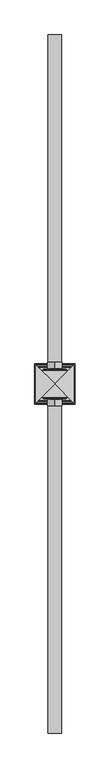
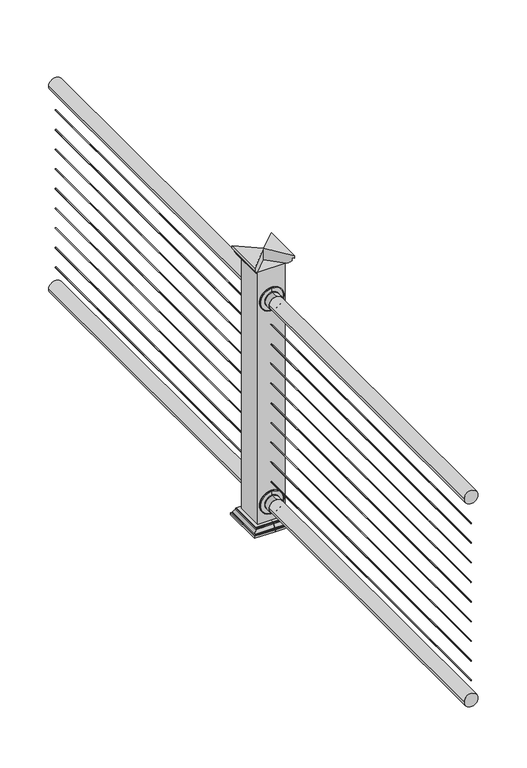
"""IFC4 building model written with IfcOpenShell, lengths in millimetres: railing geometry, RailEasy™ Nautilus Flat."""

from ifc_helpers import new_model, si_unit, point, frame, frame_2d, origin, place, context, project, spatial, polyline, circle_curve, ellipse_curve, trimmed, segment, composite_curve, outline, extrude, source, transform, mapped, element, save
from ifc_brep_helpers import plane_surface, cylinder_surface, revolved_surface, advanced_brep


def railing_d079443f(model_context):
    return source(origin(), model_context, "Body", "SolidModel", [
        extrude(outline(composite_curve([segment(trimmed(circle_curve(frame_2d((2876.826087, 6384.1486243)), 25.4), [point((2876.826087, 6358.7486243))], [point((2876.826087, 6409.5486243))], False, "CARTESIAN"), True, "CONTINUOUS"), segment(trimmed(circle_curve(frame_2d((2876.826087, 6384.1486243)), 25.4), [point((2876.826087, 6409.5486243))], [point((2876.826087, 6358.7486243))], False, "CARTESIAN"), True, "CONTINUOUS")], self_intersect=False)), frame((0.0, 1092.4935787, 0.0), z_axis=(0.0, 1.0, 0.0), x_axis=(0.0, 0.0, 1.0)), (0.0, 0.0, 1.0), 2641.6),
        extrude(outline(composite_curve([segment(trimmed(circle_curve(frame_2d((2775.226087, 6384.1486243)), 1.5379197), [point((2775.226087, 6382.6107045))], [point((2775.226087, 6385.686544))], False, "CARTESIAN"), True, "CONTINUOUS"), segment(trimmed(circle_curve(frame_2d((2775.226087, 6384.1486243)), 1.5379197), [point((2775.226087, 6385.686544))], [point((2775.226087, 6382.6107045))], False, "CARTESIAN"), True, "CONTINUOUS")], self_intersect=False)), frame((0.0, 1092.4935787, 0.0), z_axis=(0.0, 1.0, 0.0), x_axis=(0.0, 0.0, 1.0)), (0.0, 0.0, 1.0), 2641.6),
        extrude(outline(composite_curve([segment(trimmed(circle_curve(frame_2d((2699.026087, 6384.1486243)), 1.5379197), [point((2699.026087, 6382.6107045))], [point((2699.026087, 6385.686544))], False, "CARTESIAN"), True, "CONTINUOUS"), segment(trimmed(circle_curve(frame_2d((2699.026087, 6384.1486243)), 1.5379197), [point((2699.026087, 6385.686544))], [point((2699.026087, 6382.6107045))], False, "CARTESIAN"), True, "CONTINUOUS")], self_intersect=False)), frame((0.0, 1092.4935787, 0.0), z_axis=(0.0, 1.0, 0.0), x_axis=(0.0, 0.0, 1.0)), (0.0, 0.0, 1.0), 2641.6),
        extrude(outline(composite_curve([segment(trimmed(circle_curve(frame_2d((2622.826087, 6384.1486243)), 1.5379197), [point((2622.826087, 6382.6107045))], [point((2622.826087, 6385.686544))], False, "CARTESIAN"), True, "CONTINUOUS"), segment(trimmed(circle_curve(frame_2d((2622.826087, 6384.1486243)), 1.5379197), [point((2622.826087, 6385.686544))], [point((2622.826087, 6382.6107045))], False, "CARTESIAN"), True, "CONTINUOUS")], self_intersect=False)), frame((0.0, 1092.4935787, 0.0), z_axis=(0.0, 1.0, 0.0), x_axis=(0.0, 0.0, 1.0)), (0.0, 0.0, 1.0), 2641.6),
        extrude(outline(composite_curve([segment(trimmed(circle_curve(frame_2d((2546.626087, 6384.1486243)), 1.5379197), [point((2546.626087, 6382.6107045))], [point((2546.626087, 6385.686544))], False, "CARTESIAN"), True, "CONTINUOUS"), segment(trimmed(circle_curve(frame_2d((2546.626087, 6384.1486243)), 1.5379197), [point((2546.626087, 6385.686544))], [point((2546.626087, 6382.6107045))], False, "CARTESIAN"), True, "CONTINUOUS")], self_intersect=False)), frame((0.0, 1092.4935787, 0.0), z_axis=(0.0, 1.0, 0.0), x_axis=(0.0, 0.0, 1.0)), (0.0, 0.0, 1.0), 2641.6),
        extrude(outline(composite_curve([segment(trimmed(circle_curve(frame_2d((2470.426087, 6384.1486243)), 1.5379197), [point((2470.426087, 6382.6107045))], [point((2470.426087, 6385.686544))], False, "CARTESIAN"), True, "CONTINUOUS"), segment(trimmed(circle_curve(frame_2d((2470.426087, 6384.1486243)), 1.5379197), [point((2470.426087, 6385.686544))], [point((2470.426087, 6382.6107045))], False, "CARTESIAN"), True, "CONTINUOUS")], self_intersect=False)), frame((0.0, 1092.4935787, 0.0), z_axis=(0.0, 1.0, 0.0), x_axis=(0.0, 0.0, 1.0)), (0.0, 0.0, 1.0), 2641.6),
        extrude(outline(composite_curve([segment(trimmed(circle_curve(frame_2d((2394.226087, 6384.1486243)), 1.5379197), [point((2394.226087, 6382.6107045))], [point((2394.226087, 6385.686544))], False, "CARTESIAN"), True, "CONTINUOUS"), segment(trimmed(circle_curve(frame_2d((2394.226087, 6384.1486243)), 1.5379197), [point((2394.226087, 6385.686544))], [point((2394.226087, 6382.6107045))], False, "CARTESIAN"), True, "CONTINUOUS")], self_intersect=False)), frame((0.0, 1092.4935787, 0.0), z_axis=(0.0, 1.0, 0.0), x_axis=(0.0, 0.0, 1.0)), (0.0, 0.0, 1.0), 2641.6),
        extrude(outline(composite_curve([segment(trimmed(circle_curve(frame_2d((2318.026087, 6384.1486243)), 1.5379197), [point((2318.026087, 6382.6107045))], [point((2318.026087, 6385.686544))], False, "CARTESIAN"), True, "CONTINUOUS"), segment(trimmed(circle_curve(frame_2d((2318.026087, 6384.1486243)), 1.5379197), [point((2318.026087, 6385.686544))], [point((2318.026087, 6382.6107045))], False, "CARTESIAN"), True, "CONTINUOUS")], self_intersect=False)), frame((0.0, 1092.4935787, 0.0), z_axis=(0.0, 1.0, 0.0), x_axis=(0.0, 0.0, 1.0)), (0.0, 0.0, 1.0), 2641.6),
        extrude(outline(composite_curve([segment(trimmed(circle_curve(frame_2d((2241.826087, 6384.1486243)), 1.5379197), [point((2241.826087, 6382.6107045))], [point((2241.826087, 6385.686544))], False, "CARTESIAN"), True, "CONTINUOUS"), segment(trimmed(circle_curve(frame_2d((2241.826087, 6384.1486243)), 1.5379197), [point((2241.826087, 6385.686544))], [point((2241.826087, 6382.6107045))], False, "CARTESIAN"), True, "CONTINUOUS")], self_intersect=False)), frame((0.0, 1092.4935787, 0.0), z_axis=(0.0, 1.0, 0.0), x_axis=(0.0, 0.0, 1.0)), (0.0, 0.0, 1.0), 2641.6),
        extrude(outline(composite_curve([segment(trimmed(circle_curve(frame_2d((2165.626087, 6384.1486243)), 1.5379197), [point((2165.626087, 6382.6107045))], [point((2165.626087, 6385.686544))], False, "CARTESIAN"), True, "CONTINUOUS"), segment(trimmed(circle_curve(frame_2d((2165.626087, 6384.1486243)), 1.5379197), [point((2165.626087, 6385.686544))], [point((2165.626087, 6382.6107045))], False, "CARTESIAN"), True, "CONTINUOUS")], self_intersect=False)), frame((0.0, 1092.4935787, 0.0), z_axis=(0.0, 1.0, 0.0), x_axis=(0.0, 0.0, 1.0)), (0.0, 0.0, 1.0), 2641.6),
        extrude(outline(composite_curve([segment(trimmed(circle_curve(frame_2d((2089.426087, 6384.1486243)), 25.4), [point((2089.426087, 6358.7486243))], [point((2089.426087, 6409.5486243))], False, "CARTESIAN"), True, "CONTINUOUS"), segment(trimmed(circle_curve(frame_2d((2089.426087, 6384.1486243)), 25.4), [point((2089.426087, 6409.5486243))], [point((2089.426087, 6358.7486243))], False, "CARTESIAN"), True, "CONTINUOUS")], self_intersect=False)), frame((0.0, 1092.4935787, 0.0), z_axis=(0.0, 1.0, 0.0), x_axis=(0.0, 0.0, 1.0)), (0.0, 0.0, 1.0), 2641.6),
        extrude(outline(polyline([(6434.9486243, 2362.4935787), (6333.3486243, 2362.4935787), (6333.3486243, 2464.0935787), (6434.9486243, 2464.0935787), (6434.9486243, 2362.4935787)])), frame((0.0, 0.0, 1987.826087), z_axis=(0.0, 0.0, 1.0), x_axis=(1.0, 0.0, 0.0)), (0.0, 0.0, 1.0), 1008.0625),
        advanced_brep(
        [(6384.1486243, 2359.3185787, 2044.9956119), (6384.1486243, 2359.3185787, 2133.8956119), (6384.1486243, 2357.7310787, 2132.3081119), (6384.1486243, 2357.7310787, 2046.5831119), (6384.1486243, 2357.7310787, 2118.0206119), (6384.1486243, 2357.7310787, 2060.8706119), (6384.1486243, 2356.1435787, 2116.4331119), (6384.1486243, 2356.1435787, 2062.4581119), (6384.1486243, 2362.4935787, 2089.4456119), (6384.1486243, 2362.4935787, 2133.8956119), (6384.1486243, 2362.4935787, 2044.9956119), (6384.1486243, 2330.7435787, 2062.4581119), (6384.1486243, 2330.7435787, 2116.4331119), (6384.1486243, 2330.7435787, 2089.4456119)],
        [
            (0, 1, circle_curve(frame((6384.1486243, 2359.3185787, 2089.4456119), z_axis=(0.0, -1.0, 0.0), x_axis=(0.0, 0.0, 1.0)), 44.45)),
            (1, 2),
            (2, 3, circle_curve(frame((6384.1486243, 2357.7310787, 2089.4456119), z_axis=(0.0, 1.0, 0.0), x_axis=(0.0, 0.0, 1.0)), 42.8625)),
            (3, 0),
            (1, 0, circle_curve(frame((6384.1486243, 2359.3185787, 2089.4456119), z_axis=(0.0, -1.0, 0.0), x_axis=(0.0, 0.0, 1.0)), 44.45)),
            (3, 2, circle_curve(frame((6384.1486243, 2357.7310787, 2089.4456119), z_axis=(0.0, 1.0, 0.0), x_axis=(0.0, 0.0, 1.0)), 42.8625)),
            (2, 4),
            (4, 5, circle_curve(frame((6384.1486243, 2357.7310787, 2089.4456119), z_axis=(0.0, 1.0, 0.0), x_axis=(0.0, 0.0, 1.0)), 28.575)),
            (5, 3),
            (5, 4, circle_curve(frame((6384.1486243, 2357.7310787, 2089.4456119), z_axis=(0.0, 1.0, 0.0), x_axis=(0.0, 0.0, 1.0)), 28.575)),
            (4, 6, circle_curve(frame((6384.1486243, 2356.1435787, 2118.0206119), z_axis=(-1.0, 0.0, 0.0), x_axis=(0.0, 1.0, 0.0)), 1.5875)),
            (6, 7, circle_curve(frame((6384.1486243, 2356.1435787, 2089.4456119), z_axis=(0.0, 1.0, 0.0), x_axis=(0.0, 0.0, 1.0)), 26.9875)),
            (7, 5, circle_curve(frame((6384.1486243, 2356.1435787, 2060.8706119), z_axis=(-1.0, 0.0, 0.0), x_axis=(0.0, 1.0, 0.0)), 1.5875)),
            (7, 6, circle_curve(frame((6384.1486243, 2356.1435787, 2089.4456119), z_axis=(0.0, 1.0, 0.0), x_axis=(0.0, 0.0, 1.0)), 26.9875)),
            (8, 9),
            (9, 10, circle_curve(frame((6384.1486243, 2362.4935787, 2089.4456119), z_axis=(0.0, 1.0, 0.0), x_axis=(0.0, 0.0, 1.0)), 44.45)),
            (10, 8),
            (10, 9, circle_curve(frame((6384.1486243, 2362.4935787, 2089.4456119), z_axis=(0.0, 1.0, 0.0), x_axis=(0.0, 0.0, 1.0)), 44.45)),
            (9, 1),
            (0, 10),
            (11, 12, circle_curve(frame((6384.1486243, 2330.7435787, 2089.4456119), z_axis=(0.0, -1.0, 0.0), x_axis=(0.0, 0.0, 1.0)), 26.9875)),
            (12, 13),
            (13, 11),
            (12, 11, circle_curve(frame((6384.1486243, 2330.7435787, 2089.4456119), z_axis=(0.0, -1.0, 0.0), x_axis=(0.0, 0.0, 1.0)), 26.9875)),
            (6, 12),
            (11, 7),
        ],
        [
            revolved_surface(polyline([(6384.1486243, 2357.7310787, 2132.3081119), (6384.1486243, 2359.3185787, 2133.8956119)]), (6384.1486243, 2330.7435787, 2089.4456119), (0.0, 1.0, 0.0)),
            plane_surface(frame((6384.1486243, 2357.7310787, 2089.4456119), z_axis=(0.0, -1.0, 0.0), x_axis=(0.0, 0.0, 1.0))),
            revolved_surface(trimmed(ellipse_curve(frame((6384.1486243, 2356.1435787, 2118.0206119), z_axis=(1.0, 0.0, 0.0), x_axis=(0.0, 1.0, 0.0)), 1.5875, 1.5875), [point((6384.1486243, 2356.1435787, 2116.4331119))], [point((6384.1486243, 2357.7310787, 2118.0206119))], True, "CARTESIAN"), (6384.1486243, 2330.7435787, 2089.4456119), (0.0, 1.0, 0.0)),
            plane_surface(frame((6384.1486243, 2362.4935787, 2089.4456119), z_axis=(0.0, 1.0, 0.0), x_axis=(0.0, 0.0, 1.0))),
            cylinder_surface(frame((6384.1486243, 2330.7435787, 2089.4456119), z_axis=(0.0, 1.0, 0.0), x_axis=(0.0, 0.0, 1.0)), 44.45),
            plane_surface(frame((6384.1486243, 2330.7435787, 2089.4456119), z_axis=(0.0, -1.0, 0.0), x_axis=(0.0, 0.0, 1.0))),
            cylinder_surface(frame((6384.1486243, 2330.7435787, 2089.4456119), z_axis=(0.0, 1.0, 0.0), x_axis=(0.0, 0.0, 1.0)), 26.9875),
        ],
        [
            (0, [[1, 2, 3, 4]]),
            (0, [[5, -4, 6, -2]]),
            (1, [[-3, 7, 8, 9]]),
            (1, [[-6, -9, 10, -7]]),
            (2, [[-8, 11, 12, 13]]),
            (2, [[-10, -13, 14, -11]]),
            (3, [[15, 16, 17]]),
            (3, [[-17, 18, -15]]),
            (4, [[-16, 19, -1, 20]]),
            (4, [[-18, -20, -5, -19]]),
            (5, [[21, 22, 23]]),
            (5, [[24, -23, -22]]),
            (6, [[-12, 25, -21, 26]]),
            (6, [[-14, -26, -24, -25]]),
        ],
    ),
        advanced_brep(
        [(6384.1486243, 2468.8560787, 2046.549264), (6384.1486243, 2468.8560787, 2132.274264), (6384.1486243, 2467.2685787, 2133.861764), (6384.1486243, 2467.2685787, 2044.961764), (6384.1486243, 2468.8560787, 2060.836764), (6384.1486243, 2468.8560787, 2117.986764), (6384.1486243, 2470.4435787, 2062.424264), (6384.1486243, 2470.4435787, 2116.399264), (6384.1486243, 2464.0935787, 2044.961764), (6384.1486243, 2464.0935787, 2133.861764), (6384.1486243, 2464.0935787, 2089.411764), (6384.1486243, 2495.8435787, 2062.424264), (6384.1486243, 2495.8435787, 2116.399264), (6384.1486243, 2495.8435787, 2089.411764)],
        [
            (0, 1, circle_curve(frame((6384.1486243, 2468.8560787, 2089.411764), z_axis=(0.0, -1.0, 0.0), x_axis=(0.0, 0.0, 1.0)), 42.8625)),
            (1, 2),
            (2, 3, circle_curve(frame((6384.1486243, 2467.2685787, 2089.411764), z_axis=(0.0, 1.0, 0.0), x_axis=(0.0, 0.0, 1.0)), 44.45)),
            (3, 0),
            (1, 0, circle_curve(frame((6384.1486243, 2468.8560787, 2089.411764), z_axis=(0.0, -1.0, 0.0), x_axis=(0.0, 0.0, 1.0)), 42.8625)),
            (3, 2, circle_curve(frame((6384.1486243, 2467.2685787, 2089.411764), z_axis=(0.0, 1.0, 0.0), x_axis=(0.0, 0.0, 1.0)), 44.45)),
            (4, 5, circle_curve(frame((6384.1486243, 2468.8560787, 2089.411764), z_axis=(0.0, -1.0, 0.0), x_axis=(0.0, 0.0, 1.0)), 28.575)),
            (5, 1),
            (0, 4),
            (5, 4, circle_curve(frame((6384.1486243, 2468.8560787, 2089.411764), z_axis=(0.0, -1.0, 0.0), x_axis=(0.0, 0.0, 1.0)), 28.575)),
            (6, 7, circle_curve(frame((6384.1486243, 2470.4435787, 2089.411764), z_axis=(0.0, -1.0, 0.0), x_axis=(0.0, 0.0, 1.0)), 26.9875)),
            (7, 5, circle_curve(frame((6384.1486243, 2470.4435787, 2117.986764), z_axis=(-1.0, 0.0, 0.0), x_axis=(0.0, -1.0, 0.0)), 1.5875)),
            (4, 6, circle_curve(frame((6384.1486243, 2470.4435787, 2060.836764), z_axis=(-1.0, 0.0, 0.0), x_axis=(0.0, -1.0, 0.0)), 1.5875)),
            (7, 6, circle_curve(frame((6384.1486243, 2470.4435787, 2089.411764), z_axis=(0.0, -1.0, 0.0), x_axis=(0.0, 0.0, 1.0)), 26.9875)),
            (8, 9, circle_curve(frame((6384.1486243, 2464.0935787, 2089.411764), z_axis=(0.0, -1.0, 0.0), x_axis=(0.0, 0.0, 1.0)), 44.45)),
            (9, 10),
            (10, 8),
            (9, 8, circle_curve(frame((6384.1486243, 2464.0935787, 2089.411764), z_axis=(0.0, -1.0, 0.0), x_axis=(0.0, 0.0, 1.0)), 44.45)),
            (2, 9),
            (8, 3),
            (11, 12, circle_curve(frame((6384.1486243, 2495.8435787, 2089.411764), z_axis=(0.0, -1.0, 0.0), x_axis=(0.0, 0.0, 1.0)), 26.9875)),
            (12, 7),
            (6, 11),
            (12, 11, circle_curve(frame((6384.1486243, 2495.8435787, 2089.411764), z_axis=(0.0, -1.0, 0.0), x_axis=(0.0, 0.0, 1.0)), 26.9875)),
            (13, 12),
            (11, 13),
        ],
        [
            revolved_surface(polyline([(6384.1486243, 2467.2685787, 2133.861764), (6384.1486243, 2468.8560787, 2132.274264)]), (6384.1486243, 2495.8435787, 2089.411764), (0.0, 1.0, 0.0)),
            plane_surface(frame((6384.1486243, 2468.8560787, 2089.411764), z_axis=(0.0, 1.0, 0.0), x_axis=(0.0, 0.0, 1.0))),
            revolved_surface(trimmed(ellipse_curve(frame((6384.1486243, 2470.4435787, 2117.986764), z_axis=(1.0, 0.0, 0.0), x_axis=(0.0, -1.0, 0.0)), 1.5875, 1.5875), [point((6384.1486243, 2468.8560787, 2117.986764))], [point((6384.1486243, 2470.4435787, 2116.399264))], True, "CARTESIAN"), (6384.1486243, 2495.8435787, 2089.411764), (0.0, 1.0, 0.0)),
            plane_surface(frame((6384.1486243, 2464.0935787, 2089.411764), z_axis=(0.0, -1.0, 0.0), x_axis=(0.0, 0.0, 1.0))),
            cylinder_surface(frame((6384.1486243, 2495.8435787, 2089.411764), z_axis=(0.0, 1.0, 0.0), x_axis=(0.0, 0.0, 1.0)), 44.45),
            cylinder_surface(frame((6384.1486243, 2495.8435787, 2089.411764), z_axis=(0.0, 1.0, 0.0), x_axis=(0.0, 0.0, 1.0)), 26.9875),
            plane_surface(frame((6384.1486243, 2495.8435787, 2089.411764), z_axis=(0.0, 1.0, 0.0), x_axis=(0.0, 0.0, 1.0))),
        ],
        [
            (0, [[1, 2, 3, 4]]),
            (0, [[5, -4, 6, -2]]),
            (1, [[7, 8, -1, 9]]),
            (1, [[10, -9, -5, -8]]),
            (2, [[11, 12, -7, 13]]),
            (2, [[14, -13, -10, -12]]),
            (3, [[15, 16, 17]]),
            (3, [[18, -17, -16]]),
            (4, [[-3, 19, -15, 20]]),
            (4, [[-6, -20, -18, -19]]),
            (5, [[21, 22, -11, 23]]),
            (5, [[24, -23, -14, -22]]),
            (6, [[25, -21, 26]]),
            (6, [[-26, -24, -25]]),
        ],
    ),
        advanced_brep(
        [(6384.1486243, 2359.3185787, 2832.3743799), (6384.1486243, 2359.3185787, 2921.2743799), (6384.1486243, 2357.7310787, 2919.6868799), (6384.1486243, 2357.7310787, 2833.9618799), (6384.1486243, 2357.7310787, 2905.3993799), (6384.1486243, 2357.7310787, 2848.2493799), (6384.1486243, 2356.1435787, 2903.8118799), (6384.1486243, 2356.1435787, 2849.8368799), (6384.1486243, 2362.4935787, 2876.8243799), (6384.1486243, 2362.4935787, 2921.2743799), (6384.1486243, 2362.4935787, 2832.3743799), (6384.1486243, 2330.7435787, 2849.8368799), (6384.1486243, 2330.7435787, 2903.8118799), (6384.1486243, 2330.7435787, 2876.8243799)],
        [
            (0, 1, circle_curve(frame((6384.1486243, 2359.3185787, 2876.8243799), z_axis=(0.0, -1.0, 0.0), x_axis=(0.0, 0.0, 1.0)), 44.45)),
            (1, 2),
            (2, 3, circle_curve(frame((6384.1486243, 2357.7310787, 2876.8243799), z_axis=(0.0, 1.0, 0.0), x_axis=(0.0, 0.0, 1.0)), 42.8625)),
            (3, 0),
            (1, 0, circle_curve(frame((6384.1486243, 2359.3185787, 2876.8243799), z_axis=(0.0, -1.0, 0.0), x_axis=(0.0, 0.0, 1.0)), 44.45)),
            (3, 2, circle_curve(frame((6384.1486243, 2357.7310787, 2876.8243799), z_axis=(0.0, 1.0, 0.0), x_axis=(0.0, 0.0, 1.0)), 42.8625)),
            (2, 4),
            (4, 5, circle_curve(frame((6384.1486243, 2357.7310787, 2876.8243799), z_axis=(0.0, 1.0, 0.0), x_axis=(0.0, 0.0, 1.0)), 28.575)),
            (5, 3),
            (5, 4, circle_curve(frame((6384.1486243, 2357.7310787, 2876.8243799), z_axis=(0.0, 1.0, 0.0), x_axis=(0.0, 0.0, 1.0)), 28.575)),
            (4, 6, circle_curve(frame((6384.1486243, 2356.1435787, 2905.3993799), z_axis=(-1.0, 0.0, 0.0), x_axis=(0.0, 1.0, 0.0)), 1.5875)),
            (6, 7, circle_curve(frame((6384.1486243, 2356.1435787, 2876.8243799), z_axis=(0.0, 1.0, 0.0), x_axis=(0.0, 0.0, 1.0)), 26.9875)),
            (7, 5, circle_curve(frame((6384.1486243, 2356.1435787, 2848.2493799), z_axis=(-1.0, 0.0, 0.0), x_axis=(0.0, 1.0, 0.0)), 1.5875)),
            (7, 6, circle_curve(frame((6384.1486243, 2356.1435787, 2876.8243799), z_axis=(0.0, 1.0, 0.0), x_axis=(0.0, 0.0, 1.0)), 26.9875)),
            (8, 9),
            (9, 10, circle_curve(frame((6384.1486243, 2362.4935787, 2876.8243799), z_axis=(0.0, 1.0, 0.0), x_axis=(0.0, 0.0, 1.0)), 44.45)),
            (10, 8),
            (10, 9, circle_curve(frame((6384.1486243, 2362.4935787, 2876.8243799), z_axis=(0.0, 1.0, 0.0), x_axis=(0.0, 0.0, 1.0)), 44.45)),
            (9, 1),
            (0, 10),
            (11, 12, circle_curve(frame((6384.1486243, 2330.7435787, 2876.8243799), z_axis=(0.0, -1.0, 0.0), x_axis=(0.0, 0.0, 1.0)), 26.9875)),
            (12, 13),
            (13, 11),
            (12, 11, circle_curve(frame((6384.1486243, 2330.7435787, 2876.8243799), z_axis=(0.0, -1.0, 0.0), x_axis=(0.0, 0.0, 1.0)), 26.9875)),
            (6, 12),
            (11, 7),
        ],
        [
            revolved_surface(polyline([(6384.1486243, 2357.7310787, 2919.6868799), (6384.1486243, 2359.3185787, 2921.2743799)]), (6384.1486243, 2362.4935787, 2876.8243799), (0.0, 1.0, 0.0)),
            plane_surface(frame((6384.1486243, 2357.7310787, 2876.8243799), z_axis=(0.0, -1.0, 0.0), x_axis=(0.0, 0.0, 1.0))),
            revolved_surface(trimmed(ellipse_curve(frame((6384.1486243, 2356.1435787, 2905.3993799), z_axis=(1.0, 0.0, 0.0), x_axis=(0.0, 1.0, 0.0)), 1.5875, 1.5875), [point((6384.1486243, 2356.1435787, 2903.8118799))], [point((6384.1486243, 2357.7310787, 2905.3993799))], True, "CARTESIAN"), (6384.1486243, 2362.4935787, 2876.8243799), (0.0, 1.0, 0.0)),
            plane_surface(frame((6384.1486243, 2362.4935787, 2876.8243799), z_axis=(0.0, 1.0, 0.0), x_axis=(0.0, 0.0, 1.0))),
            cylinder_surface(frame((6384.1486243, 2362.4935787, 2876.8243799), z_axis=(0.0, 1.0, 0.0), x_axis=(0.0, 0.0, 1.0)), 44.45),
            plane_surface(frame((6384.1486243, 2330.7435787, 2876.8243799), z_axis=(0.0, -1.0, 0.0), x_axis=(0.0, 0.0, 1.0))),
            cylinder_surface(frame((6384.1486243, 2362.4935787, 2876.8243799), z_axis=(0.0, 1.0, 0.0), x_axis=(0.0, 0.0, 1.0)), 26.9875),
        ],
        [
            (0, [[1, 2, 3, 4]]),
            (0, [[5, -4, 6, -2]]),
            (1, [[-3, 7, 8, 9]]),
            (1, [[-6, -9, 10, -7]]),
            (2, [[-8, 11, 12, 13]]),
            (2, [[-10, -13, 14, -11]]),
            (3, [[15, 16, 17]]),
            (3, [[-17, 18, -15]]),
            (4, [[-16, 19, -1, 20]]),
            (4, [[-18, -20, -5, -19]]),
            (5, [[21, 22, 23]]),
            (5, [[24, -23, -22]]),
            (6, [[-12, 25, -21, 26]]),
            (6, [[-14, -26, -24, -25]]),
        ],
    ),
        advanced_brep(
        [(6384.1486243, 2468.8560787, 2833.7651495), (6384.1486243, 2468.8560787, 2919.4901495), (6384.1486243, 2467.2685787, 2921.0776495), (6384.1486243, 2467.2685787, 2832.1776495), (6384.1486243, 2468.8560787, 2848.0526495), (6384.1486243, 2468.8560787, 2905.2026495), (6384.1486243, 2470.4435787, 2849.6401495), (6384.1486243, 2470.4435787, 2903.6151495), (6384.1486243, 2464.0935787, 2832.1776495), (6384.1486243, 2464.0935787, 2921.0776495), (6384.1486243, 2464.0935787, 2876.6276495), (6384.1486243, 2495.8435787, 2849.6401495), (6384.1486243, 2495.8435787, 2903.6151495), (6384.1486243, 2495.8435787, 2876.6276495)],
        [
            (0, 1, circle_curve(frame((6384.1486243, 2468.8560787, 2876.6276495), z_axis=(0.0, -1.0, 0.0), x_axis=(0.0, 0.0, 1.0)), 42.8625)),
            (1, 2),
            (2, 3, circle_curve(frame((6384.1486243, 2467.2685787, 2876.6276495), z_axis=(0.0, 1.0, 0.0), x_axis=(0.0, 0.0, 1.0)), 44.45)),
            (3, 0),
            (1, 0, circle_curve(frame((6384.1486243, 2468.8560787, 2876.6276495), z_axis=(0.0, -1.0, 0.0), x_axis=(0.0, 0.0, 1.0)), 42.8625)),
            (3, 2, circle_curve(frame((6384.1486243, 2467.2685787, 2876.6276495), z_axis=(0.0, 1.0, 0.0), x_axis=(0.0, 0.0, 1.0)), 44.45)),
            (4, 5, circle_curve(frame((6384.1486243, 2468.8560787, 2876.6276495), z_axis=(0.0, -1.0, 0.0), x_axis=(0.0, 0.0, 1.0)), 28.575)),
            (5, 1),
            (0, 4),
            (5, 4, circle_curve(frame((6384.1486243, 2468.8560787, 2876.6276495), z_axis=(0.0, -1.0, 0.0), x_axis=(0.0, 0.0, 1.0)), 28.575)),
            (6, 7, circle_curve(frame((6384.1486243, 2470.4435787, 2876.6276495), z_axis=(0.0, -1.0, 0.0), x_axis=(0.0, 0.0, 1.0)), 26.9875)),
            (7, 5, circle_curve(frame((6384.1486243, 2470.4435787, 2905.2026495), z_axis=(-1.0, 0.0, 0.0), x_axis=(0.0, -1.0, 0.0)), 1.5875)),
            (4, 6, circle_curve(frame((6384.1486243, 2470.4435787, 2848.0526495), z_axis=(-1.0, 0.0, 0.0), x_axis=(0.0, -1.0, 0.0)), 1.5875)),
            (7, 6, circle_curve(frame((6384.1486243, 2470.4435787, 2876.6276495), z_axis=(0.0, -1.0, 0.0), x_axis=(0.0, 0.0, 1.0)), 26.9875)),
            (8, 9, circle_curve(frame((6384.1486243, 2464.0935787, 2876.6276495), z_axis=(0.0, -1.0, 0.0), x_axis=(0.0, 0.0, 1.0)), 44.45)),
            (9, 10),
            (10, 8),
            (9, 8, circle_curve(frame((6384.1486243, 2464.0935787, 2876.6276495), z_axis=(0.0, -1.0, 0.0), x_axis=(0.0, 0.0, 1.0)), 44.45)),
            (2, 9),
            (8, 3),
            (11, 12, circle_curve(frame((6384.1486243, 2495.8435787, 2876.6276495), z_axis=(0.0, -1.0, 0.0), x_axis=(0.0, 0.0, 1.0)), 26.9875)),
            (12, 7),
            (6, 11),
            (12, 11, circle_curve(frame((6384.1486243, 2495.8435787, 2876.6276495), z_axis=(0.0, -1.0, 0.0), x_axis=(0.0, 0.0, 1.0)), 26.9875)),
            (13, 12),
            (11, 13),
        ],
        [
            revolved_surface(polyline([(6384.1486243, 2467.2685787, 2921.0776495), (6384.1486243, 2468.8560787, 2919.4901495)]), (6384.1486243, 2464.0935787, 2876.6276495), (0.0, 1.0, 0.0)),
            plane_surface(frame((6384.1486243, 2468.8560787, 2876.6276495), z_axis=(0.0, 1.0, 0.0), x_axis=(0.0, 0.0, 1.0))),
            revolved_surface(trimmed(ellipse_curve(frame((6384.1486243, 2470.4435787, 2905.2026495), z_axis=(1.0, 0.0, 0.0), x_axis=(0.0, -1.0, 0.0)), 1.5875, 1.5875), [point((6384.1486243, 2468.8560787, 2905.2026495))], [point((6384.1486243, 2470.4435787, 2903.6151495))], True, "CARTESIAN"), (6384.1486243, 2464.0935787, 2876.6276495), (0.0, 1.0, 0.0)),
            plane_surface(frame((6384.1486243, 2464.0935787, 2876.6276495), z_axis=(0.0, -1.0, 0.0), x_axis=(0.0, 0.0, 1.0))),
            cylinder_surface(frame((6384.1486243, 2464.0935787, 2876.6276495), z_axis=(0.0, 1.0, 0.0), x_axis=(0.0, 0.0, 1.0)), 44.45),
            cylinder_surface(frame((6384.1486243, 2464.0935787, 2876.6276495), z_axis=(0.0, 1.0, 0.0), x_axis=(0.0, 0.0, 1.0)), 26.9875),
            plane_surface(frame((6384.1486243, 2495.8435787, 2876.6276495), z_axis=(0.0, 1.0, 0.0), x_axis=(0.0, 0.0, 1.0))),
        ],
        [
            (0, [[1, 2, 3, 4]]),
            (0, [[5, -4, 6, -2]]),
            (1, [[7, 8, -1, 9]]),
            (1, [[10, -9, -5, -8]]),
            (2, [[11, 12, -7, 13]]),
            (2, [[14, -13, -10, -12]]),
            (3, [[15, 16, 17]]),
            (3, [[18, -17, -16]]),
            (4, [[-3, 19, -15, 20]]),
            (4, [[-6, -20, -18, -19]]),
            (5, [[21, 22, -11, 23]]),
            (5, [[24, -23, -14, -22]]),
            (6, [[25, -21, 26]]),
            (6, [[-26, -24, -25]]),
        ],
    ),
        advanced_brep(
        [(6384.1486243, 2337.0935787, 1987.826087), (6384.1486243, 2337.0935787, 1995.763587), (6384.1486243, 2340.2685787, 1995.763587), (6384.1486243, 2340.2685787, 1998.938587), (6384.1486243, 2341.8560787, 1998.938587), (6384.1486243, 2348.2060787, 2011.638587), (6384.1486243, 2348.2060787, 2014.813587), (6384.1486243, 2351.3810787, 2014.813587), (6384.1486243, 2351.3810787, 2017.988587), (6384.1486243, 2475.2060787, 2017.988587), (6384.1486243, 2475.2060787, 2014.813587), (6384.1486243, 2478.3810787, 2014.813587), (6384.1486243, 2478.3810787, 2011.638587), (6384.1486243, 2484.7310787, 1998.938587), (6384.1486243, 2486.3185787, 1998.938587), (6384.1486243, 2486.3185787, 1995.763587), (6384.1486243, 2489.4935787, 1995.763587), (6384.1486243, 2489.4935787, 1987.826087), (6446.0611243, 2351.3810787, 2017.988587), (6446.0611243, 2475.2060787, 2017.988587), (6446.0611243, 2351.3810787, 2014.813587), (6446.0611243, 2475.2060787, 2014.813587), (6449.2361243, 2348.2060787, 2014.813587), (6449.2361243, 2478.3810787, 2014.813587), (6449.2361243, 2348.2060787, 2011.638587), (6449.2361243, 2478.3810787, 2011.638587), (6455.5861243, 2341.8560787, 1998.938587), (6455.5861243, 2484.7310787, 1998.938587), (6457.1736243, 2340.2685787, 1998.938587), (6457.1736243, 2486.3185787, 1998.938587), (6457.1736243, 2340.2685787, 1995.763587), (6457.1736243, 2486.3185787, 1995.763587), (6460.3486243, 2337.0935787, 1995.763587), (6460.3486243, 2489.4935787, 1995.763587), (6460.3486243, 2337.0935787, 1987.826087), (6460.3486243, 2489.4935787, 1987.826087)],
        [
            (0, 1),
            (1, 2),
            (2, 3),
            (3, 4),
            (4, 5, circle_curve(frame((6384.1486243, 2367.2560787, 1994.176087), z_axis=(-1.0, 0.0, 0.0), x_axis=(0.0, -1.0, 0.0)), 25.8426277)),
            (5, 6),
            (6, 7),
            (7, 8),
            (8, 9),
            (9, 10),
            (10, 11),
            (11, 12),
            (12, 13, circle_curve(frame((6384.1486243, 2459.3310787, 1994.176087), z_axis=(-1.0, 0.0, 0.0), x_axis=(0.0, -1.0, 0.0)), 25.8426277)),
            (13, 14),
            (14, 15),
            (15, 16),
            (16, 17),
            (17, 0),
            (8, 18),
            (18, 19),
            (19, 9),
            (18, 20),
            (20, 21),
            (21, 19),
            (20, 7),
            (6, 22),
            (22, 23),
            (23, 11),
            (10, 21),
            (22, 24),
            (24, 25),
            (25, 23),
            (24, 26, ellipse_curve(frame((6430.1861243, 2367.2560787, 1994.176087), z_axis=(0.7071067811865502, 0.7071067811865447, 0.0), x_axis=(-0.7071067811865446, 0.7071067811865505, 0.0)), 36.5469946, 25.8426277)),
            (26, 27),
            (27, 25, ellipse_curve(frame((6430.1861243, 2459.3310787, 1994.176087), z_axis=(0.7071067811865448, -0.7071067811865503, 0.0), x_axis=(0.7071067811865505, 0.7071067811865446, 0.0)), 36.5469946, 25.8426277)),
            (26, 4),
            (3, 28),
            (28, 29),
            (29, 14),
            (13, 27),
            (28, 30),
            (30, 31),
            (31, 29),
            (30, 2),
            (1, 32),
            (32, 33),
            (33, 16),
            (15, 31),
            (32, 34),
            (34, 35),
            (35, 33),
            (34, 0),
            (17, 35),
            (5, 24),
            (12, 25),
        ],
        [
            plane_surface(frame((6384.1486243, 2506.4394663, 1987.826087), z_axis=(-1.0, 0.0, 0.0), x_axis=(0.0, -1.0, 0.0))),
            plane_surface(frame((6384.1486243, 2506.4394663, 2017.988587), z_axis=(0.0, 0.0, 1.0), x_axis=(0.0, -1.0, 0.0))),
            plane_surface(frame((6446.0611243, 2506.4394663, 2017.988587), z_axis=(1.0, 0.0, 0.0), x_axis=(0.0, -1.0, 0.0))),
            plane_surface(frame((6446.0611243, 2506.4394663, 2014.813587), z_axis=(0.0, 0.0, 1.0), x_axis=(0.0, -1.0, 0.0))),
            plane_surface(frame((6449.2361243, 2506.4394663, 2014.813587), z_axis=(1.0, 0.0, 0.0), x_axis=(0.0, -1.0, 0.0))),
            cylinder_surface(frame((6430.1861243, 2320.1476912, 1994.176087), z_axis=(0.0, 1.0, 0.0), x_axis=(-1.0, 0.0, 0.0)), 25.8426277),
            plane_surface(frame((6455.5861243, 2506.4394663, 1998.938587), z_axis=(0.0, 0.0, 1.0), x_axis=(0.0, -1.0, 0.0))),
            plane_surface(frame((6457.1736243, 2506.4394663, 1998.938587), z_axis=(1.0, 0.0, 0.0), x_axis=(0.0, -1.0, 0.0))),
            plane_surface(frame((6457.1736243, 2506.4394663, 1995.763587), z_axis=(0.0, 0.0, 1.0), x_axis=(0.0, -1.0, 0.0))),
            plane_surface(frame((6460.3486243, 2506.4394663, 1995.763587), z_axis=(1.0, 0.0, 0.0), x_axis=(0.0, -1.0, 0.0))),
            plane_surface(frame((6460.3486243, 2506.4394663, 1987.826087), z_axis=(0.0, 0.0, -1.0), x_axis=(0.0, -1.0, 0.0))),
            plane_surface(frame((6307.9486243, 2337.0935787, 1995.763587), z_axis=(0.0, -1.0, 0.0), x_axis=(1.0, 0.0, 0.0))),
            plane_surface(frame((6307.9486243, 2351.3810787, 2017.988587), z_axis=(0.0, -1.0, 0.0), x_axis=(1.0, 0.0, 0.0))),
            plane_surface(frame((6307.9486243, 2348.2060787, 2014.813587), z_axis=(0.0, -1.0, 0.0), x_axis=(1.0, 0.0, 0.0))),
            cylinder_surface(frame((6460.3486243, 2367.2560787, 1994.176087), z_axis=(1.0, 0.0, 0.0), x_axis=(0.0, -1.0, 0.0)), 25.8426277),
            plane_surface(frame((6307.9486243, 2340.2685787, 1998.938587), z_axis=(0.0, -1.0, 0.0), x_axis=(1.0, 0.0, 0.0))),
            plane_surface(frame((6307.9486243, 2489.4935787, 1987.826087), z_axis=(0.0, 1.0, 0.0), x_axis=(1.0, 0.0, 0.0))),
            plane_surface(frame((6307.9486243, 2486.3185787, 1995.763587), z_axis=(0.0, 1.0, 0.0), x_axis=(1.0, 0.0, 0.0))),
            cylinder_surface(frame((6460.3486243, 2459.3310787, 1994.176087), z_axis=(1.0, 0.0, 0.0), x_axis=(0.0, -1.0, 0.0)), 25.8426277),
            plane_surface(frame((6307.9486243, 2478.3810787, 2011.638587), z_axis=(0.0, 1.0, 0.0), x_axis=(1.0, 0.0, 0.0))),
            plane_surface(frame((6307.9486243, 2475.2060787, 2014.813587), z_axis=(0.0, 1.0, 0.0), x_axis=(1.0, 0.0, 0.0))),
        ],
        [
            (0, [[1, 2, 3, 4, 5, 6, 7, 8, 9, 10, 11, 12, 13, 14, 15, 16, 17, 18]]),
            (1, [[19, 20, 21, -9]]),
            (2, [[22, 23, 24, -20]]),
            (3, [[25, -7, 26, 27, 28, -11, 29, -23]]),
            (4, [[-27, 30, 31, 32]]),
            (5, [[33, 34, 35, -31]]),
            (6, [[36, -4, 37, 38, 39, -14, 40, -34]]),
            (7, [[-38, 41, 42, 43]]),
            (8, [[44, -2, 45, 46, 47, -16, 48, -42]]),
            (9, [[-46, 49, 50, 51]]),
            (10, [[52, -18, 53, -50]]),
            (11, [[-1, -52, -49, -45]]),
            (12, [[-25, -22, -19, -8]]),
            (13, [[54, -30, -26, -6]]),
            (14, [[-54, -5, -36, -33]]),
            (15, [[-44, -41, -37, -3]]),
            (16, [[-47, -51, -53, -17]]),
            (17, [[-48, -15, -39, -43]]),
            (18, [[-40, -13, 55, -35]]),
            (19, [[-55, -12, -28, -32]]),
            (20, [[-29, -10, -21, -24]]),
        ],
    ),
        advanced_brep(
        [(6384.1486243, 2337.0935787, 1995.763587), (6384.1486243, 2337.0935787, 1987.826087), (6384.1486243, 2489.4935787, 1987.826087), (6384.1486243, 2489.4935787, 1995.763587), (6384.1486243, 2486.3185787, 1995.763587), (6384.1486243, 2486.3185787, 1998.938587), (6384.1486243, 2484.7310787, 1998.938587), (6384.1486243, 2478.3810787, 2011.638587), (6384.1486243, 2478.3810787, 2014.813587), (6384.1486243, 2475.2060787, 2014.813587), (6384.1486243, 2475.2060787, 2017.988587), (6384.1486243, 2351.3810787, 2017.988587), (6384.1486243, 2351.3810787, 2014.813587), (6384.1486243, 2348.2060787, 2014.813587), (6384.1486243, 2348.2060787, 2011.638587), (6384.1486243, 2341.8560787, 1998.938587), (6384.1486243, 2340.2685787, 1998.938587), (6384.1486243, 2340.2685787, 1995.763587), (6322.2361243, 2351.3810787, 2017.988587), (6322.2361243, 2475.2060787, 2017.988587), (6322.2361243, 2351.3810787, 2014.813587), (6322.2361243, 2475.2060787, 2014.813587), (6319.0611243, 2478.3810787, 2014.813587), (6319.0611243, 2348.2060787, 2014.813587), (6319.0611243, 2348.2060787, 2011.638587), (6319.0611243, 2478.3810787, 2011.638587), (6312.7111243, 2341.8560787, 1998.938587), (6312.7111243, 2484.7310787, 1998.938587), (6311.1236243, 2486.3185787, 1998.938587), (6311.1236243, 2340.2685787, 1998.938587), (6311.1236243, 2340.2685787, 1995.763587), (6311.1236243, 2486.3185787, 1995.763587), (6307.9486243, 2489.4935787, 1995.763587), (6307.9486243, 2337.0935787, 1995.763587), (6307.9486243, 2337.0935787, 1987.826087), (6307.9486243, 2489.4935787, 1987.826087)],
        [
            (0, 1),
            (1, 2),
            (2, 3),
            (3, 4),
            (4, 5),
            (5, 6),
            (6, 7, circle_curve(frame((6384.1486243, 2459.3310787, 1994.176087), z_axis=(1.0, 0.0, 0.0), x_axis=(0.0, -1.0, 0.0)), 25.8426277)),
            (7, 8),
            (8, 9),
            (9, 10),
            (10, 11),
            (11, 12),
            (12, 13),
            (13, 14),
            (14, 15, circle_curve(frame((6384.1486243, 2367.2560787, 1994.176087), z_axis=(1.0, 0.0, 0.0), x_axis=(0.0, -1.0, 0.0)), 25.8426277)),
            (15, 16),
            (16, 17),
            (17, 0),
            (18, 11),
            (10, 19),
            (19, 18),
            (20, 18),
            (19, 21),
            (21, 20),
            (12, 20),
            (21, 9),
            (8, 22),
            (22, 23),
            (23, 13),
            (24, 23),
            (22, 25),
            (25, 24),
            (26, 24, ellipse_curve(frame((6338.1111243, 2367.2560787, 1994.176087), z_axis=(-0.7071067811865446, 0.7071067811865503, 0.0), x_axis=(0.7071067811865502, 0.7071067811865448, 0.0)), 36.5469946, 25.8426277)),
            (25, 27, ellipse_curve(frame((6338.1111243, 2459.3310787, 1994.176087), z_axis=(-0.7071067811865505, -0.7071067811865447, 0.0), x_axis=(-0.7071067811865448, 0.7071067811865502, 0.0)), 36.5469946, 25.8426277)),
            (27, 26),
            (15, 26),
            (27, 6),
            (5, 28),
            (28, 29),
            (29, 16),
            (30, 29),
            (28, 31),
            (31, 30),
            (17, 30),
            (31, 4),
            (3, 32),
            (32, 33),
            (33, 0),
            (34, 33),
            (32, 35),
            (35, 34),
            (1, 34),
            (35, 2),
            (24, 14),
            (25, 7),
        ],
        [
            plane_surface(frame((6384.1486243, 2506.4394663, 2017.988587), z_axis=(1.0, 0.0, 0.0), x_axis=(0.0, -1.0, 0.0))),
            plane_surface(frame((6322.2361243, 2506.4394663, 2017.988587), z_axis=(0.0, 0.0, 1.0), x_axis=(0.0, -1.0, 0.0))),
            plane_surface(frame((6322.2361243, 2506.4394663, 2014.813587), z_axis=(-1.0, 0.0, 0.0), x_axis=(0.0, -1.0, 0.0))),
            plane_surface(frame((6319.0611243, 2506.4394663, 2014.813587), z_axis=(0.0, 0.0, 1.0), x_axis=(0.0, -1.0, 0.0))),
            plane_surface(frame((6319.0611243, 2506.4394663, 2011.638587), z_axis=(-1.0, 0.0, 0.0), x_axis=(0.0, -1.0, 0.0))),
            cylinder_surface(frame((6338.1111243, 2320.1476912, 1994.176087), z_axis=(0.0, 1.0, 0.0), x_axis=(1.0, 0.0, 0.0)), 25.8426277),
            plane_surface(frame((6311.1236243, 2506.4394663, 1998.938587), z_axis=(0.0, 0.0, 1.0), x_axis=(0.0, -1.0, 0.0))),
            plane_surface(frame((6311.1236243, 2506.4394663, 1995.763587), z_axis=(-1.0, 0.0, 0.0), x_axis=(0.0, -1.0, 0.0))),
            plane_surface(frame((6307.9486243, 2506.4394663, 1995.763587), z_axis=(0.0, 0.0, 1.0), x_axis=(0.0, -1.0, 0.0))),
            plane_surface(frame((6307.9486243, 2506.4394663, 1987.826087), z_axis=(-1.0, 0.0, 0.0), x_axis=(0.0, -1.0, 0.0))),
            plane_surface(frame((6384.1486243, 2506.4394663, 1987.826087), z_axis=(0.0, 0.0, -1.0), x_axis=(0.0, -1.0, 0.0))),
            plane_surface(frame((6307.9486243, 2337.0935787, 1995.763587), z_axis=(0.0, -1.0, 0.0), x_axis=(1.0, 0.0, 0.0))),
            plane_surface(frame((6307.9486243, 2351.3810787, 2017.988587), z_axis=(0.0, -1.0, 0.0), x_axis=(1.0, 0.0, 0.0))),
            plane_surface(frame((6307.9486243, 2348.2060787, 2014.813587), z_axis=(0.0, -1.0, 0.0), x_axis=(1.0, 0.0, 0.0))),
            cylinder_surface(frame((6460.3486243, 2367.2560787, 1994.176087), z_axis=(1.0, 0.0, 0.0), x_axis=(0.0, -1.0, 0.0)), 25.8426277),
            plane_surface(frame((6307.9486243, 2340.2685787, 1998.938587), z_axis=(0.0, -1.0, 0.0), x_axis=(1.0, 0.0, 0.0))),
            plane_surface(frame((6307.9486243, 2489.4935787, 1987.826087), z_axis=(0.0, 1.0, 0.0), x_axis=(1.0, 0.0, 0.0))),
            plane_surface(frame((6307.9486243, 2486.3185787, 1995.763587), z_axis=(0.0, 1.0, 0.0), x_axis=(1.0, 0.0, 0.0))),
            cylinder_surface(frame((6460.3486243, 2459.3310787, 1994.176087), z_axis=(1.0, 0.0, 0.0), x_axis=(0.0, -1.0, 0.0)), 25.8426277),
            plane_surface(frame((6307.9486243, 2478.3810787, 2011.638587), z_axis=(0.0, 1.0, 0.0), x_axis=(1.0, 0.0, 0.0))),
            plane_surface(frame((6307.9486243, 2475.2060787, 2014.813587), z_axis=(0.0, 1.0, 0.0), x_axis=(1.0, 0.0, 0.0))),
        ],
        [
            (0, [[1, 2, 3, 4, 5, 6, 7, 8, 9, 10, 11, 12, 13, 14, 15, 16, 17, 18]]),
            (1, [[19, -11, 20, 21]]),
            (2, [[22, -21, 23, 24]]),
            (3, [[25, -24, 26, -9, 27, 28, 29, -13]]),
            (4, [[30, -28, 31, 32]]),
            (5, [[33, -32, 34, 35]]),
            (6, [[36, -35, 37, -6, 38, 39, 40, -16]]),
            (7, [[41, -39, 42, 43]]),
            (8, [[44, -43, 45, -4, 46, 47, 48, -18]]),
            (9, [[49, -47, 50, 51]]),
            (10, [[52, -51, 53, -2]]),
            (11, [[-1, -48, -49, -52]]),
            (12, [[-25, -12, -19, -22]]),
            (13, [[54, -14, -29, -30]]),
            (14, [[-54, -33, -36, -15]]),
            (15, [[-44, -17, -40, -41]]),
            (16, [[-46, -3, -53, -50]]),
            (17, [[-45, -42, -38, -5]]),
            (18, [[-37, -34, 55, -7]]),
            (19, [[-55, -31, -27, -8]]),
            (20, [[-26, -23, -20, -10]]),
        ],
    ),
        advanced_brep(
        [(6311.1236243, 2340.2685787, 3030.813587), (6384.1486243, 2413.2935787, 3040.338587), (6311.1236243, 2486.3185787, 3030.813587), (6311.1236243, 2340.2685787, 3021.288587), (6311.1236243, 2486.3185787, 3021.288587), (6317.4736243, 2346.6185787, 3021.288587), (6317.4736243, 2479.9685787, 3021.288587), (6317.4736243, 2346.6185787, 3010.1299834), (6317.4736243, 2479.9685787, 3010.1299834), (6321.144718, 2350.2896725, 3003.826087), (6321.144718, 2476.297485, 3003.826087), (6324.319718, 2353.4646725, 3003.826087), (6324.319718, 2473.122485, 3003.826087), (6330.669718, 2359.8146725, 2997.476087), (6330.669718, 2466.772485, 2997.476087), (6330.669718, 2359.8146725, 2995.888587), (6330.669718, 2466.772485, 2995.888587), (6384.1486243, 2413.2935787, 2995.888587)],
        [
            (0, 1),
            (1, 2),
            (2, 0),
            (3, 0),
            (2, 4),
            (4, 3),
            (5, 3),
            (4, 6),
            (6, 5),
            (7, 5),
            (6, 8),
            (8, 7),
            (9, 7, ellipse_curve(frame((6308.444718, 2337.5896725, 3000.651087), z_axis=(0.7071067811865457, -0.7071067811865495, 0.0), x_axis=(-0.7071067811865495, -0.7071067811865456, 0.0)), 18.5132723, 13.0908604)),
            (8, 10, ellipse_curve(frame((6308.444718, 2488.997485, 3000.651087), z_axis=(0.7071067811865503, 0.7071067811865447, 0.0), x_axis=(0.7071067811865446, -0.7071067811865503, 0.0)), 18.5132723, 13.0908604)),
            (10, 9),
            (11, 9),
            (10, 12),
            (12, 11),
            (13, 11, ellipse_curve(frame((6330.669718, 2359.8146725, 3003.826087), z_axis=(-0.7071067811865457, 0.7071067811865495, 0.0), x_axis=(0.7071067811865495, 0.7071067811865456, 0.0)), 8.9802561, 6.35)),
            (12, 14, ellipse_curve(frame((6330.669718, 2466.772485, 3003.826087), z_axis=(-0.7071067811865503, -0.7071067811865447, 0.0), x_axis=(-0.7071067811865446, 0.7071067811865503, 0.0)), 8.9802561, 6.35)),
            (14, 13),
            (15, 13),
            (14, 16),
            (16, 15),
            (17, 15),
            (16, 17),
            (17, 1),
        ],
        [
            plane_surface(frame((6311.1236243, 2530.4952874, 3030.813587), z_axis=(-0.12933918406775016, 0.0, 0.9916004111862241), x_axis=(0.0, -1.0, 0.0))),
            plane_surface(frame((6311.1236243, 2530.4952874, 3021.288587), z_axis=(-1.0, 0.0, 0.0), x_axis=(0.0, -1.0, 0.0))),
            plane_surface(frame((6317.4736243, 2530.4952874, 3021.288587), z_axis=(0.0, 0.0, -1.0), x_axis=(0.0, -1.0, 0.0))),
            plane_surface(frame((6317.4736243, 2530.4952874, 3010.1299834), z_axis=(-1.0, 0.0, 0.0), x_axis=(0.0, -1.0, 0.0))),
            revolved_surface(polyline([(6321.535578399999, 2324.4988121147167, 3000.651087), (6321.535578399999, 2502.088345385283, 3000.651087)]), (6308.444718, 2303.9999994, 3000.651087), (0.0, -1.0, 0.0)),
            plane_surface(frame((6324.319718, 2530.4952874, 3003.826087), z_axis=(0.0, 0.0, -1.0), x_axis=(0.0, -1.0, 0.0))),
            cylinder_surface(frame((6330.669718, 2303.9999994, 3003.826087), z_axis=(0.0, 1.0, 0.0), x_axis=(1.0, 0.0, 0.0)), 6.35),
            plane_surface(frame((6330.669718, 2530.4952874, 2995.888587), z_axis=(-1.0, 0.0, 0.0), x_axis=(0.0, -1.0, 0.0))),
            plane_surface(frame((6384.1486243, 2530.4952874, 2995.888587), z_axis=(0.0, 0.0, -1.0), x_axis=(0.0, -1.0, 0.0))),
            plane_surface(frame((6384.1486243, 2413.2935787, 3224.488587), z_axis=(0.7071067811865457, -0.7071067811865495, 0.0), x_axis=(0.0, 0.0, -1.0))),
            plane_surface(frame((6250.7986243, 2546.6435787, 3224.488587), z_axis=(0.7071067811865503, 0.7071067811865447, 0.0), x_axis=(0.0, 0.0, -1.0))),
        ],
        [
            (0, [[1, 2, 3]]),
            (1, [[4, -3, 5, 6]]),
            (2, [[7, -6, 8, 9]]),
            (3, [[10, -9, 11, 12]]),
            (4, [[13, -12, 14, 15]]),
            (5, [[16, -15, 17, 18]]),
            (6, [[19, -18, 20, 21]]),
            (7, [[22, -21, 23, 24]]),
            (8, [[25, -24, 26]]),
            (9, [[-1, -4, -7, -10, -13, -16, -19, -22, -25, 27]]),
            (10, [[-2, -27, -26, -23, -20, -17, -14, -11, -8, -5]]),
        ],
    ),
        advanced_brep(
        [(6384.1486243, 2413.2935787, 3040.338587), (6457.1736243, 2340.2685787, 3030.813587), (6457.1736243, 2486.3185787, 3030.813587), (6457.1736243, 2340.2685787, 3021.288587), (6457.1736243, 2486.3185787, 3021.288587), (6450.8236243, 2346.6185787, 3021.288587), (6450.8236243, 2479.9685787, 3021.288587), (6450.8236243, 2346.6185787, 3010.1299834), (6450.8236243, 2479.9685787, 3010.1299834), (6447.1525305, 2350.2896725, 3003.826087), (6447.1525305, 2476.297485, 3003.826087), (6443.9775305, 2353.4646725, 3003.826087), (6443.9775305, 2473.122485, 3003.826087), (6437.6275305, 2359.8146725, 2997.476087), (6437.6275305, 2466.772485, 2997.476087), (6437.6275305, 2359.8146725, 2995.888587), (6437.6275305, 2466.772485, 2995.888587), (6384.1486243, 2413.2935787, 2995.888587)],
        [
            (0, 1),
            (1, 2),
            (2, 0),
            (1, 3),
            (3, 4),
            (4, 2),
            (3, 5),
            (5, 6),
            (6, 4),
            (5, 7),
            (7, 8),
            (8, 6),
            (7, 9, ellipse_curve(frame((6459.8525305, 2337.5896725, 3000.651087), z_axis=(-0.7071067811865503, -0.7071067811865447, 0.0), x_axis=(0.7071067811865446, -0.7071067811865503, 0.0)), 18.5132723, 13.0908604)),
            (9, 10),
            (10, 8, ellipse_curve(frame((6459.8525305, 2488.997485, 3000.651087), z_axis=(-0.7071067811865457, 0.7071067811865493, 0.0), x_axis=(-0.7071067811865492, -0.7071067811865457, 0.0)), 18.5132723, 13.0908604)),
            (9, 11),
            (11, 12),
            (12, 10),
            (11, 13, ellipse_curve(frame((6437.6275305, 2359.8146725, 3003.826087), z_axis=(0.7071067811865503, 0.7071067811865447, 0.0), x_axis=(-0.7071067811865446, 0.7071067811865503, 0.0)), 8.9802561, 6.35)),
            (13, 14),
            (14, 12, ellipse_curve(frame((6437.6275305, 2466.772485, 3003.826087), z_axis=(0.7071067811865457, -0.7071067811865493, 0.0), x_axis=(0.7071067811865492, 0.7071067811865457, 0.0)), 8.9802561, 6.35)),
            (13, 15),
            (15, 16),
            (16, 14),
            (15, 17),
            (17, 16),
            (0, 17),
        ],
        [
            plane_surface(frame((6384.1486243, 2530.4952874, 3040.338587), z_axis=(0.12933918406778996, 0.0, 0.9916004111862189), x_axis=(0.0, -1.0, 0.0))),
            plane_surface(frame((6457.1736243, 2530.4952874, 3030.813587), z_axis=(1.0, 0.0, 0.0), x_axis=(0.0, -1.0, 0.0))),
            plane_surface(frame((6457.1736243, 2530.4952874, 3021.288587), z_axis=(0.0, 0.0, -1.0), x_axis=(0.0, -1.0, 0.0))),
            plane_surface(frame((6450.8236243, 2530.4952874, 3021.288587), z_axis=(1.0, 0.0, 0.0), x_axis=(0.0, -1.0, 0.0))),
            revolved_surface(polyline([(6446.761670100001, 2324.4988121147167, 3000.651087), (6446.761670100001, 2502.088345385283, 3000.651087)]), (6459.8525305, 2303.9999994, 3000.651087), (0.0, -1.0, 0.0)),
            plane_surface(frame((6447.1525305, 2530.4952874, 3003.826087), z_axis=(0.0, 0.0, -1.0), x_axis=(0.0, -1.0, 0.0))),
            cylinder_surface(frame((6437.6275305, 2303.9999994, 3003.826087), z_axis=(0.0, 1.0, 0.0), x_axis=(-1.0, 0.0, 0.0)), 6.35),
            plane_surface(frame((6437.6275305, 2530.4952874, 2997.476087), z_axis=(1.0, 0.0, 0.0), x_axis=(0.0, -1.0, 0.0))),
            plane_surface(frame((6437.6275305, 2530.4952874, 2995.888587), z_axis=(0.0, 0.0, -1.0), x_axis=(0.0, -1.0, 0.0))),
            plane_surface(frame((6493.4422036, 2303.9999994, 3224.488587), z_axis=(-0.7071067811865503, -0.7071067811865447, 0.0), x_axis=(0.0, 0.0, -1.0))),
            plane_surface(frame((6384.1486243, 2413.2935787, 3224.488587), z_axis=(-0.7071067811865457, 0.7071067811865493, 0.0), x_axis=(0.0, 0.0, -1.0))),
        ],
        [
            (0, [[1, 2, 3]]),
            (1, [[4, 5, 6, -2]]),
            (2, [[7, 8, 9, -5]]),
            (3, [[10, 11, 12, -8]]),
            (4, [[13, 14, 15, -11]]),
            (5, [[16, 17, 18, -14]]),
            (6, [[19, 20, 21, -17]]),
            (7, [[22, 23, 24, -20]]),
            (8, [[25, 26, -23]]),
            (9, [[-1, 27, -25, -22, -19, -16, -13, -10, -7, -4]]),
            (10, [[-3, -6, -9, -12, -15, -18, -21, -24, -26, -27]]),
        ],
    ),
    ])


if __name__ == "__main__":
    model = new_model("IFC4")
    model_context = context("Model", 3, world=origin())
    ifc_project = project(units=[si_unit("LENGTHUNIT", "METRE", prefix="MILLI")], contexts=[model_context])
    site = spatial("IfcSite", under=ifc_project)
    building = spatial("IfcBuilding", under=site)
    placement = place(None, origin())
    railing_shape = railing_d079443f(model_context)
    element("IfcRailing", 1, ObjectType="RailEasy™ Nautilus Flat", at=placement, inside=building, context=model_context, shape_type="MappedRepresentation", body=[
        mapped(railing_shape, transform((0.0, 0.0, 0.0), x_axis=(1.0, 0.0, 0.0), y_axis=(0.0, 1.0, 0.0), z_axis=(0.0, 0.0, 1.0))),
    ])
    save(model, "model.ifc")
